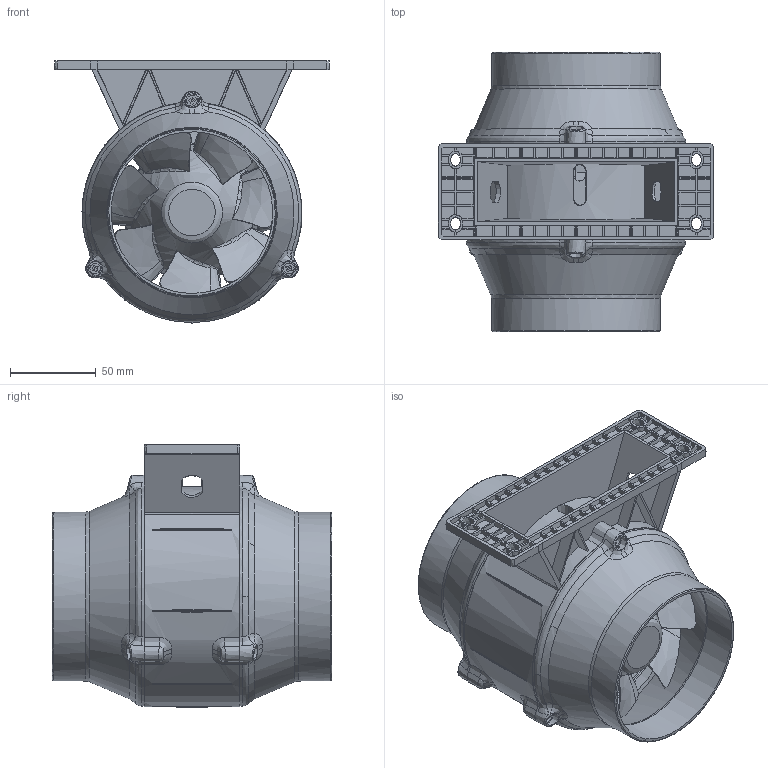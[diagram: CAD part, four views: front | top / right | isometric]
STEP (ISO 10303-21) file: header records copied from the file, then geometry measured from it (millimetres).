
FILE_DESCRIPTION ((), '1');
FILE_NAME ('C:\Users\Administrator\Desktop\塑料风机产品页\A100.stp', '2026-09-11T17:40:42', ('Unknown'), ('Unknown'), 'HarmonyWare STEP v2.1.4', 'HarmonyWare Translators', '');
FILE_SCHEMA (('CONFIG_CONTROL_DESIGN'));
Length unit declared in the file: millimetre
Products named in the file (9): 100风机塑胶壳款_objects
Assembly tree (8 placements, depth 2):
  (unnamed)
    100风机塑胶壳款_objects
    100风机塑胶壳款_objects
    100风机塑胶壳款_objects
    100风机塑胶壳款_objects
    100风机塑胶壳款_objects
    100风机塑胶壳款_objects
    100风机塑胶壳款_objects
    100风机塑胶壳款_objects
Bounding box: 160 x 162.41 x 152.51 mm (x, y, z)
Volume: 292424.9 mm3; surface area: 285002.1 mm2
Topology: 7 solids, 35 shells, 2704 faces, 7879 edges, 5170 vertices
Faces by surface type: bspline 2704
Entity records: 200941 total; most frequent: CARTESIAN_POINT 138068, ORIENTED_EDGE 15409, EDGE_CURVE 7802, B_SPLINE_CURVE_WITH_KNOTS 6094, VERTEX_POINT 5154, EDGE_LOOP 2814, FACE_OUTER_BOUND 2704, ADVANCED_FACE 2704
